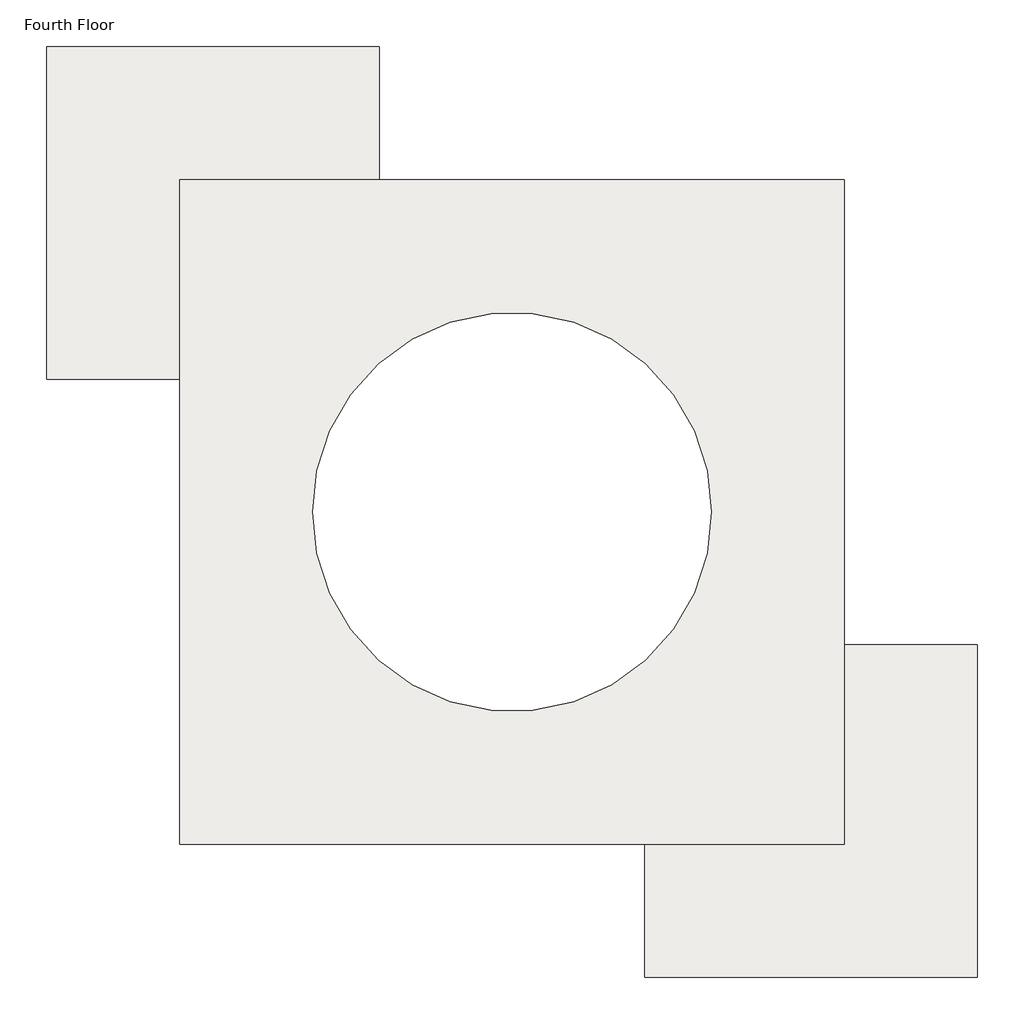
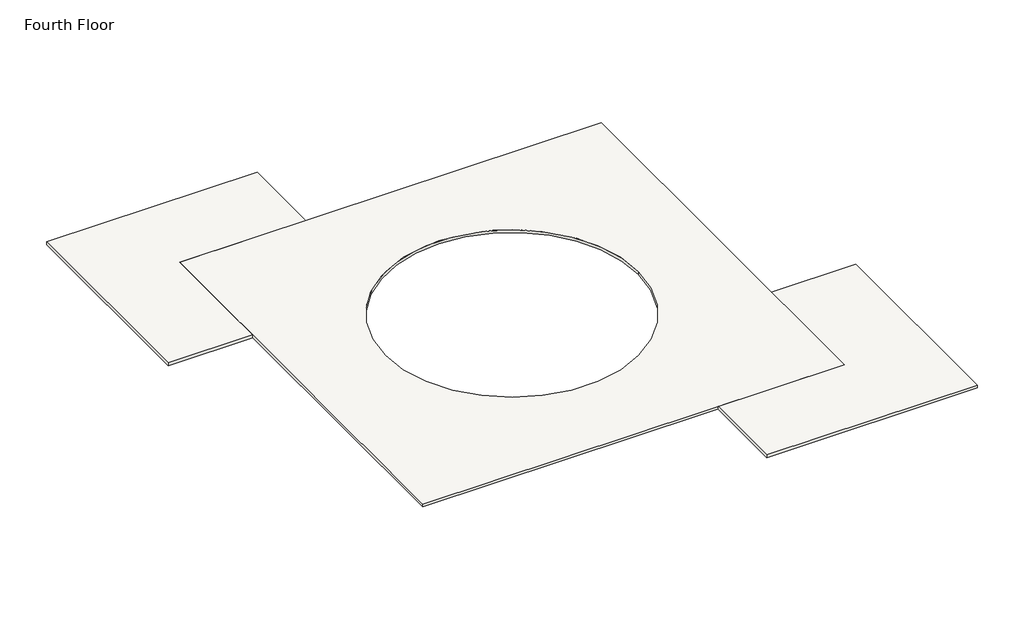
# One storey: 4 slabs.
"""IFC4 building model written with IfcOpenShell, lengths in millimetres."""

import ifcopenshell
import ifcopenshell.guid

model = None  # the IFC model being written
_history = None  # IfcOwnerHistory: only IFC2X3 demands one
_inside = {}  # id of a spatial element -> (the spatial element, [elements in it])
_under = {}  # id of a project, library or spatial element -> (it, [spatial elements below it])
_declared = {}  # id of a project -> (the project, [libraries it declares])
_typed = {}  # id of a type object -> (the type object, [elements of that type])
_made_of = {}  # id of a material, layer set ... -> (it, [elements and type objects made of it])


def new_model(schema):
    """Start an empty IFC model of exactly this schema.

    Asked for "IFC4X3", IfcOpenShell would pick the latest addendum, in which some entities
    have other attributes; the version numbers below select the first issue.
    IFC2X3 requires an IfcOwnerHistory on every rooted entity: one is made here for all.
    """
    global model, _history
    if schema == "IFC4X3":
        model = ifcopenshell.file(schema_version=(4, 3, 0, 0))
    else:
        model = ifcopenshell.file(schema=schema)
    _inside.clear()
    _under.clear()
    _declared.clear()
    _typed.clear()
    _made_of.clear()
    _history = None
    if model.schema == "IFC2X3":
        org = make("IfcOrganization", Name="unknown")
        user = make(
            "IfcPersonAndOrganization",
            ThePerson=make("IfcPerson", FamilyName="unknown"),
            TheOrganization=org,
        )
        app = make(
            "IfcApplication",
            ApplicationDeveloper=org,
            Version="unknown",
            ApplicationFullName="unknown",
            ApplicationIdentifier="unknown",
        )
        _history = make(
            "IfcOwnerHistory",
            OwningUser=user,
            OwningApplication=app,
            ChangeAction="ADDED",
            CreationDate=0,
        )
    return model


def make(cls, **values):
    """One entity of the class cls with the attributes given. An attribute that is None is left unset."""
    return model.create_entity(
        cls, **{name: value for name, value in values.items() if value is not None}
    )


def rooted(cls, **values):
    """An entity with a GlobalId (a new one), such as an element, a storey or a relation."""
    return make(cls, GlobalId=ifcopenshell.guid.new(), OwnerHistory=_history, **values)


def si_unit(unit_type, name, prefix=None):
    """IfcSIUnit, for example si_unit("LENGTHUNIT", "METRE", prefix="MILLI")."""
    return make("IfcSIUnit", UnitType=unit_type, Prefix=prefix, Name=name)


def assignment(units):
    """IfcUnitAssignment: the units of a project."""
    return None if units is None else make("IfcUnitAssignment", Units=units)


def point(xyz):
    """IfcCartesianPoint."""
    return None if xyz is None else make("IfcCartesianPoint", Coordinates=xyz)


def direction(xyz):
    """IfcDirection."""
    return None if xyz is None else make("IfcDirection", DirectionRatios=xyz)


def frame(location, z_axis=None, x_axis=None):
    """IfcAxis2Placement3D, a coordinate frame: its origin and axes. An axis left out is left unset."""
    return make(
        "IfcAxis2Placement3D",
        Location=point(location),
        Axis=direction(z_axis),
        RefDirection=direction(x_axis),
    )


def frame_2d(location, x_axis=None):
    """IfcAxis2Placement2D, a coordinate frame in the plane: its origin and x axis."""
    return make(
        "IfcAxis2Placement2D", Location=point(location), RefDirection=direction(x_axis)
    )


def origin():
    """The frame at (0, 0, 0) with its axes left unset."""
    return frame((0.0, 0.0, 0.0))


def place(relative_to, where):
    """IfcLocalPlacement: puts the frame where relative to a parent placement (None: the world)."""
    return make(
        "IfcLocalPlacement", PlacementRelTo=relative_to, RelativePlacement=where
    )


def context(
    kind, dimensions, precision=None, world=None, true_north=None, identifier=None
):
    """IfcGeometricRepresentationContext, for example the 3D "Model" context."""
    return make(
        "IfcGeometricRepresentationContext",
        ContextIdentifier=identifier,
        ContextType=kind,
        CoordinateSpaceDimension=dimensions,
        Precision=precision,
        WorldCoordinateSystem=world,
        TrueNorth=true_north,
    )


def project(units=None, contexts=None):
    """IfcProject with its units and contexts."""
    return rooted(
        "IfcProject",
        Name="project",
        RepresentationContexts=contexts,
        UnitsInContext=assignment(units),
    )


def spatial(cls, under=None, at=None, **own):
    """A site, building, storey or space (cls), placed at a placement, below another one or the project."""
    s = rooted(cls, ObjectPlacement=at, **own)
    if under is not None:
        _under.setdefault(under.id(), (under, []))[1].append(s)
    return s


def polyline(points):
    """IfcPolyline through the points."""
    return make("IfcPolyline", Points=[point(p) for p in points])


def circle_curve(where, radius):
    """IfcCircle in the frame where."""
    return make("IfcCircle", Position=where, Radius=radius)


def trimmed(basis, trim1, trim2, sense, master):
    """IfcTrimmedCurve: the piece of a basis curve between two trims."""
    return make(
        "IfcTrimmedCurve",
        BasisCurve=basis,
        Trim1=trim1,
        Trim2=trim2,
        SenseAgreement=sense,
        MasterRepresentation=master,
    )


def segment(curve, same_sense, transition):
    """IfcCompositeCurveSegment."""
    return make(
        "IfcCompositeCurveSegment",
        Transition=transition,
        SameSense=same_sense,
        ParentCurve=curve,
    )


def composite_curve(segments, self_intersect=None):
    """IfcCompositeCurve: segments joined end to end."""
    return make("IfcCompositeCurve", Segments=segments, SelfIntersect=self_intersect)


def outline(outer, holes=None, kind="AREA"):
    """IfcArbitraryClosedProfileDef: a profile drawn as a closed curve; with holes, ...WithVoids."""
    if holes is None:
        return make("IfcArbitraryClosedProfileDef", ProfileType=kind, OuterCurve=outer)
    return make(
        "IfcArbitraryProfileDefWithVoids",
        ProfileType=kind,
        OuterCurve=outer,
        InnerCurves=holes,
    )


def extrude(swept, where, along, depth):
    """IfcExtrudedAreaSolid: the profile swept, set in the frame where, extruded along a direction by depth."""
    return make(
        "IfcExtrudedAreaSolid",
        SweptArea=swept,
        Position=where,
        ExtrudedDirection=direction(along),
        Depth=depth,
    )


def shape(context_of_items, identifier, shape_type, items):
    """IfcShapeRepresentation: the items that make up one representation, for example the "Body"."""
    return make(
        "IfcShapeRepresentation",
        ContextOfItems=context_of_items,
        RepresentationIdentifier=identifier,
        RepresentationType=shape_type,
        Items=items,
    )


def made_of(thing, what):
    """Note that an element or type object is made of a material, layer set ...; save() writes the relation."""
    if what is not None:
        _made_of.setdefault(what.id(), (what, []))[1].append(thing)
    return thing


def element(
    cls,
    number,
    at=None,
    inside=None,
    cuts=None,
    type_object=None,
    material=None,
    context=None,
    identifier="Body",
    shape_type=None,
    held_by="IfcProductDefinitionShape",
    body=None,
    shapes=None,
    **own,
):
    """One element of the class cls, such as IfcWall. Its Tag is "e" and its number.

    at: its placement. inside: the storey or other place that contains it. cuts: it is an
    opening in that element (IfcRelVoidsElement). A single representation is given by context,
    identifier, shape_type and body (its items); several are given by shapes. held_by: the class
    of the entity that holds the representations. save() writes the other relations.
    """
    e = rooted(cls, Tag="e%d" % number, ObjectPlacement=at, **own)
    if body is not None:
        shapes = [shape(context, identifier, shape_type, body)]
    if shapes is not None:
        e.Representation = make(held_by, Representations=shapes)
    if inside is not None:
        _inside.setdefault(inside.id(), (inside, []))[1].append(e)
    if cuts is not None:
        rooted(
            "IfcRelVoidsElement", RelatingBuildingElement=cuts, RelatedOpeningElement=e
        )
    if type_object is not None:
        _typed.setdefault(type_object.id(), (type_object, []))[1].append(e)
    return made_of(e, material)


def aggregate(whole, parts):
    """IfcRelAggregates: a whole, such as a stair, and the parts it consists of."""
    return rooted("IfcRelAggregates", RelatingObject=whole, RelatedObjects=parts)


def save(model, path):
    """Write the relations noted so far, then the file.

    IfcRelAggregates (storeys below a building ...), IfcRelContainedInSpatialStructure (elements
    in a storey), IfcRelDefinesByType, IfcRelAssociatesMaterial and IfcRelDeclares: one each for
    every whole, place, type object, material and project.
    """
    for whole, parts in _under.values():
        aggregate(whole, parts)
    for where, things in _inside.values():
        rooted(
            "IfcRelContainedInSpatialStructure",
            RelatedElements=things,
            RelatingStructure=where,
        )
    for kind, things in _typed.values():
        rooted("IfcRelDefinesByType", RelatedObjects=things, RelatingType=kind)
    for what, things in _made_of.values():
        rooted("IfcRelAssociatesMaterial", RelatedObjects=things, RelatingMaterial=what)
    for by, libraries in _declared.values():
        rooted("IfcRelDeclares", RelatingContext=by, RelatedDefinitions=libraries)
    model.write(path)


model = new_model("IFC4")

# Units and contexts
model_context = context("Model", 3, world=origin())
ifc_project = project(units=[si_unit("LENGTHUNIT", "METRE", prefix="MILLI")], contexts=[model_context])

# Site, building, storey
site = spatial("IfcSite", under=ifc_project)
building = spatial("IfcBuilding", under=site)
storey = spatial("IfcBuildingStorey", under=building, Name="Fourth Floor", Elevation=9144.0)

# Slabs
placement = place(None, origin())
element("IfcSlab", 1, ObjectType="LW Concrete on Metal Deck", at=placement, inside=storey, context=model_context, shape_type="SweptSolid", body=[
    extrude(outline(polyline([(5148.8943843, 6934.0139224), (5148.8943843, -8305.9860776), (-10091.1056157, -8305.9860776), (-10091.1056157, 6934.0139224), (5148.8943843, 6934.0139224)]), holes=[composite_curve([segment(trimmed(circle_curve(frame_2d((-2471.1056157, -685.9860776)), 4572.0), [point((2100.8943843, -685.9860776))], [point((-7043.1056157, -685.9860776))], True, "CARTESIAN"), True, "CONTINUOUS"), segment(trimmed(circle_curve(frame_2d((-2471.1056157, -685.9860776)), 4572.0), [point((-7043.1056157, -685.9860776))], [point((2100.8943843, -685.9860776))], True, "CARTESIAN"), True, "CONTINUOUS")], self_intersect=False)]), frame((0.0, 0.0, 9039.225), z_axis=(0.0, 0.0, 1.0), x_axis=(1.0, 0.0, 0.0)), (0.0, 0.0, 1.0), 104.775),
])
element("IfcSlab", 2, ObjectType="LW Concrete on Metal Deck", at=placement, inside=storey, context=model_context, shape_type="SweptSolid", body=[
    extrude(outline(polyline([(8196.8943843, -3733.9860776), (8196.8943843, -11353.9860776), (576.8943843, -11353.9860776), (576.8943843, -8305.9860776), (5148.8943843, -8305.9860776), (5148.8943843, -3733.9860776), (8196.8943843, -3733.9860776)])), frame((0.0, 0.0, 9039.225), z_axis=(0.0, 0.0, 1.0), x_axis=(1.0, 0.0, 0.0)), (0.0, 0.0, 1.0), 104.775),
    extrude(outline(polyline([(-5519.1056157, 9982.0139224), (-5519.1056157, 6934.0139224), (-10091.1056157, 6934.0139224), (-10091.1056157, 2362.0139224), (-13139.1056157, 2362.0139224), (-13139.1056157, 9982.0139224), (-5519.1056157, 9982.0139224)])), frame((0.0, 0.0, 9039.225), z_axis=(0.0, 0.0, 1.0), x_axis=(1.0, 0.0, 0.0)), (0.0, 0.0, 1.0), 104.775),
])
element("IfcSlab", 3, ObjectType="LW Concrete on Metal Deck", at=placement, inside=storey, context=model_context, shape_type="SweptSolid", body=[
    extrude(outline(polyline([(5148.8943843, 6934.0139224), (5148.8943843, -8305.9860776), (-10091.1056157, -8305.9860776), (-10091.1056157, 6934.0139224), (5148.8943843, 6934.0139224)]), holes=[composite_curve([segment(trimmed(circle_curve(frame_2d((-2471.1056157, -685.9860776)), 4572.0), [point((2100.8943843, -685.9860776))], [point((-7043.1056157, -685.9860776))], True, "CARTESIAN"), True, "CONTINUOUS"), segment(trimmed(circle_curve(frame_2d((-2471.1056157, -685.9860776)), 4572.0), [point((-7043.1056157, -685.9860776))], [point((2100.8943843, -685.9860776))], True, "CARTESIAN"), True, "CONTINUOUS")], self_intersect=False)]), frame((0.0, 0.0, 9039.225), z_axis=(0.0, 0.0, 1.0), x_axis=(1.0, 0.0, 0.0)), (0.0, 0.0, 1.0), 104.775),
])
element("IfcSlab", 4, ObjectType="LW Concrete on Metal Deck", at=placement, inside=storey, context=model_context, shape_type="SweptSolid", body=[
    extrude(outline(polyline([(8196.8943843, -3733.9860776), (8196.8943843, -11353.9860776), (576.8943843, -11353.9860776), (576.8943843, -8305.9860776), (5148.8943843, -8305.9860776), (5148.8943843, -3733.9860776), (8196.8943843, -3733.9860776)])), frame((0.0, 0.0, 9039.225), z_axis=(0.0, 0.0, 1.0), x_axis=(1.0, 0.0, 0.0)), (0.0, 0.0, 1.0), 104.775),
    extrude(outline(polyline([(-5519.1056157, 9982.0139224), (-5519.1056157, 6934.0139224), (-10091.1056157, 6934.0139224), (-10091.1056157, 2362.0139224), (-13139.1056157, 2362.0139224), (-13139.1056157, 9982.0139224), (-5519.1056157, 9982.0139224)])), frame((0.0, 0.0, 9039.225), z_axis=(0.0, 0.0, 1.0), x_axis=(1.0, 0.0, 0.0)), (0.0, 0.0, 1.0), 104.775),
])

save(model, "model.ifc")
